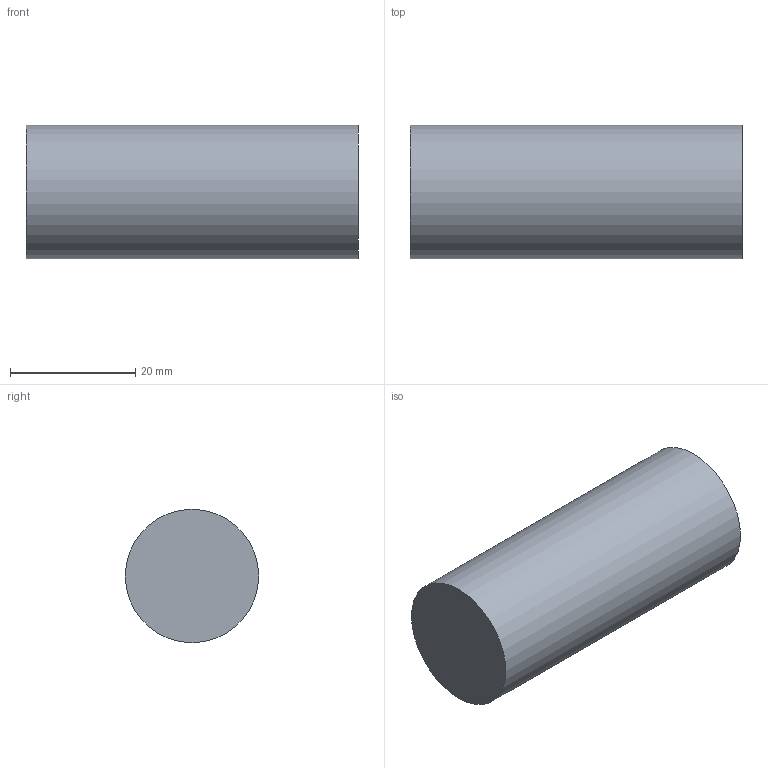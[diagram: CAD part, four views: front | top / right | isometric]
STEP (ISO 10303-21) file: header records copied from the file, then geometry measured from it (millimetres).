
FILE_DESCRIPTION(/* description */ (''),/* implementation_level */ '2;1');
FILE_NAME(/* name */ 'Endkappe 21.3.stp',/* time_stamp */ '2024-03-12T15:52:08+01:00',/* author */ ('peter.csaszar'),/* organization */ (''),/* preprocessor_version */ 'ST-DEVELOPER v20',/* originating_system */ 'Autodesk Inventor 2024',/* authorisation */ '');
FILE_SCHEMA (('AUTOMOTIVE_DESIGN { 1 0 10303 214 3 1 1 }'));
Length unit declared in the file: millimetre
Products named in the file (1): Bauteil1
Bounding box: 53 x 21.3 x 21.3 mm (x, y, z)
Volume: 6897.2 mm3; surface area: 7031 mm2
Topology: 1 solids, 1 shells, 5 faces, 6 edges, 4 vertices
Faces by surface type: plane 3, cylinder 2
Full cylindrical faces by diameter (mm): 17.3 x1, 21.3 x1
Entity records: 147 total; most frequent: DIRECTION 22, CARTESIAN_POINT 16, ORIENTED_EDGE 12, AXIS2_PLACEMENT_3D 10, EDGE_LOOP 6, EDGE_CURVE 6, FACE_OUTER_BOUND 5, ADVANCED_FACE 5
